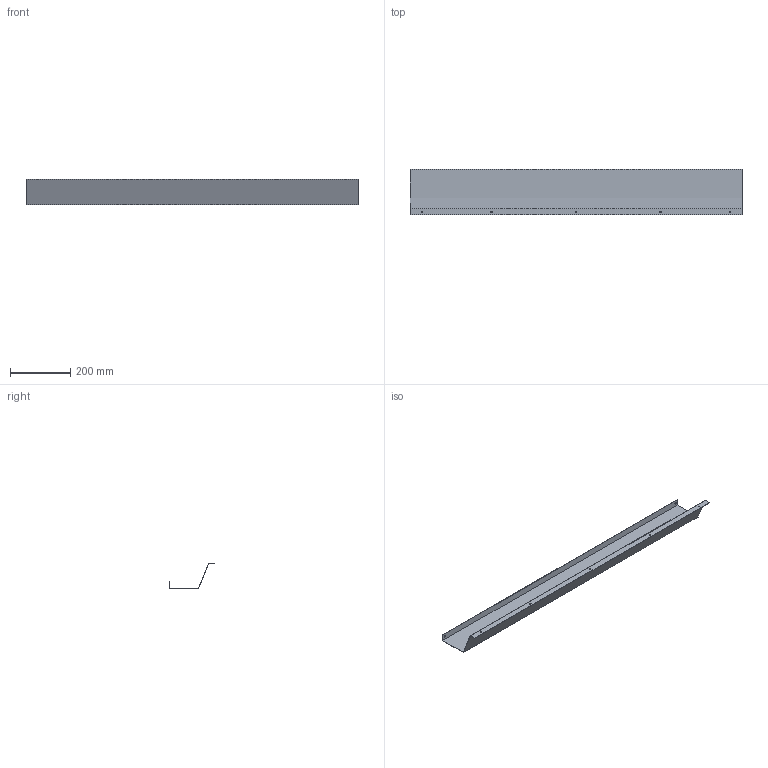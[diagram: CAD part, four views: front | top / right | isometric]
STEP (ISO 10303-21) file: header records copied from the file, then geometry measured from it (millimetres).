
FILE_DESCRIPTION( ( 'STEP AP214' ), '1' );
FILE_NAME( 'D:/Yug/2022/Actiforce_2022/QC/9309797.stp', '2022-03-02T07:26:22', ( '' ), ( '' ), ' ', 'PARTsolutions', ' ' );
FILE_SCHEMA( ( 'AUTOMOTIVE_DESIGN { 1 0 10303 214 1 1 1 1 }' ) );
Length unit declared in the file: millimetre
Products named in the file (1): _9309797
Bounding box: 1100 x 149.91 x 84.91 mm (x, y, z)
Volume: 251213.1 mm3; surface area: 505196.4 mm2
Topology: 1 solids, 1 shells, 19 faces, 51 edges, 34 vertices
Faces by surface type: plane 12, cylinder 7
Full cylindrical faces by diameter (mm): 5 x5, 5.5 x2
Entity records: 760 total; most frequent: CARTESIAN_POINT 98, DIRECTION 98, ORIENTED_EDGE 88, EDGE_CURVE 44, EDGE_LOOP 40, AXIS2_PLACEMENT_3D 34, VERTEX_POINT 34, LINE 30
